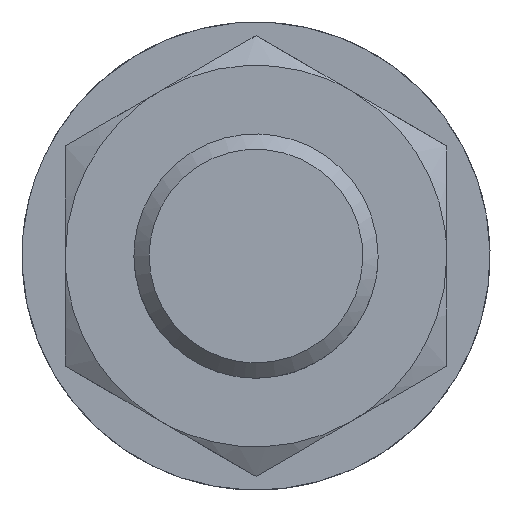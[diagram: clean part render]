
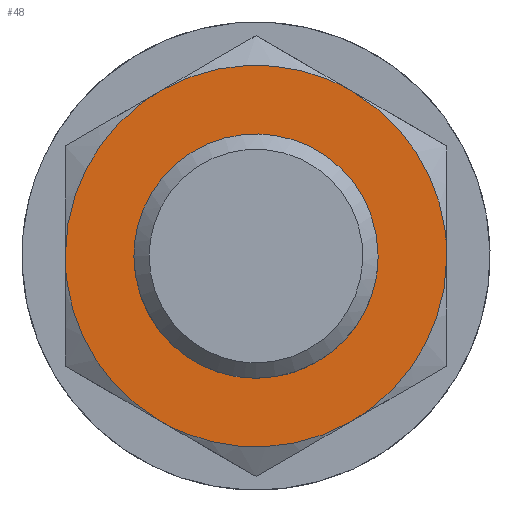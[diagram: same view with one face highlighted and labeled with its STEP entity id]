
A CAD part, left-side view. The second image highlights one B-rep face of the part: STEP entity #48.
In plain terms, the highlighted planar face has unit normal (-1, 0, 0).
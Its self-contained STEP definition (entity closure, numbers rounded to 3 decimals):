
#39=FACE_BOUND('',#135,.T.);
#48=ADVANCED_FACE('',(#90,#39),#655,.T.);
#90=FACE_OUTER_BOUND('',#134,.T.);
#134=EDGE_LOOP('',(#198,#199,#200,#201,#202,#203));
#135=EDGE_LOOP('',(#204,#205));
#198=ORIENTED_EDGE('',*,*,#399,.F.);
#199=ORIENTED_EDGE('',*,*,#401,.F.);
#200=ORIENTED_EDGE('',*,*,#402,.F.);
#201=ORIENTED_EDGE('',*,*,#400,.F.);
#202=ORIENTED_EDGE('',*,*,#398,.F.);
#203=ORIENTED_EDGE('',*,*,#397,.F.);
#204=ORIENTED_EDGE('',*,*,#387,.F.);
#205=ORIENTED_EDGE('',*,*,#385,.F.);
#385=EDGE_CURVE('',#600,#590,#510,.T.);
#387=EDGE_CURVE('',#590,#600,#511,.T.);
#397=EDGE_CURVE('',#594,#595,#519,.T.);
#398=EDGE_CURVE('',#595,#599,#520,.T.);
#399=EDGE_CURVE('',#596,#594,#521,.T.);
#400=EDGE_CURVE('',#599,#598,#522,.T.);
#401=EDGE_CURVE('',#597,#596,#523,.T.);
#402=EDGE_CURVE('',#598,#597,#524,.T.);
#510=(
BOUNDED_CURVE()
B_SPLINE_CURVE(2,(#1158,#1159,#1160,#1161,#1162),.UNSPECIFIED.,.F.,.F.)
B_SPLINE_CURVE_WITH_KNOTS((3,2,3),(75.398,113.097,150.796),
 .UNSPECIFIED.)
CURVE()
GEOMETRIC_REPRESENTATION_ITEM()
RATIONAL_B_SPLINE_CURVE((1.,0.707,1.,0.707,1.))
REPRESENTATION_ITEM('')
);
#511=(
BOUNDED_CURVE()
B_SPLINE_CURVE(2,(#1165,#1166,#1167,#1168,#1169),.UNSPECIFIED.,.F.,.F.)
B_SPLINE_CURVE_WITH_KNOTS((3,2,3),(0.,37.699,75.398),
 .UNSPECIFIED.)
CURVE()
GEOMETRIC_REPRESENTATION_ITEM()
RATIONAL_B_SPLINE_CURVE((1.,0.707,1.,0.707,1.))
REPRESENTATION_ITEM('')
);
#519=(
BOUNDED_CURVE()
B_SPLINE_CURVE(2,(#1207,#1208,#1209),.UNSPECIFIED.,.F.,.F.)
B_SPLINE_CURVE_WITH_KNOTS((3,3),(0.,39.27),.UNSPECIFIED.)
CURVE()
GEOMETRIC_REPRESENTATION_ITEM()
RATIONAL_B_SPLINE_CURVE((1.,0.866,1.))
REPRESENTATION_ITEM('')
);
#520=(
BOUNDED_CURVE()
B_SPLINE_CURVE(2,(#1210,#1211,#1212),.UNSPECIFIED.,.F.,.F.)
B_SPLINE_CURVE_WITH_KNOTS((3,3),(0.,39.27),.UNSPECIFIED.)
CURVE()
GEOMETRIC_REPRESENTATION_ITEM()
RATIONAL_B_SPLINE_CURVE((1.,0.866,1.))
REPRESENTATION_ITEM('')
);
#521=(
BOUNDED_CURVE()
B_SPLINE_CURVE(2,(#1213,#1214,#1215),.UNSPECIFIED.,.F.,.F.)
B_SPLINE_CURVE_WITH_KNOTS((3,3),(0.,39.27),.UNSPECIFIED.)
CURVE()
GEOMETRIC_REPRESENTATION_ITEM()
RATIONAL_B_SPLINE_CURVE((1.,0.866,1.))
REPRESENTATION_ITEM('')
);
#522=(
BOUNDED_CURVE()
B_SPLINE_CURVE(2,(#1216,#1217,#1218),.UNSPECIFIED.,.F.,.F.)
B_SPLINE_CURVE_WITH_KNOTS((3,3),(0.,39.27),.UNSPECIFIED.)
CURVE()
GEOMETRIC_REPRESENTATION_ITEM()
RATIONAL_B_SPLINE_CURVE((1.,0.866,1.))
REPRESENTATION_ITEM('')
);
#523=(
BOUNDED_CURVE()
B_SPLINE_CURVE(2,(#1219,#1220,#1221),.UNSPECIFIED.,.F.,.F.)
B_SPLINE_CURVE_WITH_KNOTS((3,3),(0.,39.27),.UNSPECIFIED.)
CURVE()
GEOMETRIC_REPRESENTATION_ITEM()
RATIONAL_B_SPLINE_CURVE((1.,0.866,1.))
REPRESENTATION_ITEM('')
);
#524=(
BOUNDED_CURVE()
B_SPLINE_CURVE(2,(#1222,#1223,#1224),.UNSPECIFIED.,.F.,.F.)
B_SPLINE_CURVE_WITH_KNOTS((3,3),(0.,39.27),.UNSPECIFIED.)
CURVE()
GEOMETRIC_REPRESENTATION_ITEM()
RATIONAL_B_SPLINE_CURVE((1.,0.866,1.))
REPRESENTATION_ITEM('')
);
#590=VERTEX_POINT('',#1126);
#594=VERTEX_POINT('',#1130);
#595=VERTEX_POINT('',#1131);
#596=VERTEX_POINT('',#1132);
#597=VERTEX_POINT('',#1133);
#598=VERTEX_POINT('',#1134);
#599=VERTEX_POINT('',#1135);
#600=VERTEX_POINT('',#1136);
#655=PLANE('',#769);
#769=AXIS2_PLACEMENT_3D('',#883,#795,$);
#795=DIRECTION('',(-1.,0.,0.));
#883=CARTESIAN_POINT('',(64.667,-45.12,-52.082));
#1126=CARTESIAN_POINT('',(64.667,24.,0.));
#1130=CARTESIAN_POINT('',(64.667,-18.75,-32.476));
#1131=CARTESIAN_POINT('',(64.667,18.75,-32.476));
#1132=CARTESIAN_POINT('',(64.667,-37.5,0.));
#1133=CARTESIAN_POINT('',(64.667,-18.75,32.476));
#1134=CARTESIAN_POINT('',(64.667,18.75,32.476));
#1135=CARTESIAN_POINT('',(64.667,37.5,0.));
#1136=CARTESIAN_POINT('',(64.667,-24.,0.));
#1158=CARTESIAN_POINT('',(64.667,-24.,0.));
#1159=CARTESIAN_POINT('',(64.667,-24.,24.));
#1160=CARTESIAN_POINT('',(64.667,0.,24.));
#1161=CARTESIAN_POINT('',(64.667,24.,24.));
#1162=CARTESIAN_POINT('',(64.667,24.,0.));
#1165=CARTESIAN_POINT('',(64.667,24.,0.));
#1166=CARTESIAN_POINT('',(64.667,24.,-24.));
#1167=CARTESIAN_POINT('',(64.667,0.,-24.));
#1168=CARTESIAN_POINT('',(64.667,-24.,-24.));
#1169=CARTESIAN_POINT('',(64.667,-24.,0.));
#1207=CARTESIAN_POINT('',(64.667,-18.75,-32.476));
#1208=CARTESIAN_POINT('',(64.667,0.,-43.301));
#1209=CARTESIAN_POINT('',(64.667,18.75,-32.476));
#1210=CARTESIAN_POINT('',(64.667,18.75,-32.476));
#1211=CARTESIAN_POINT('',(64.667,37.5,-21.651));
#1212=CARTESIAN_POINT('',(64.667,37.5,0.));
#1213=CARTESIAN_POINT('',(64.667,-37.5,0.));
#1214=CARTESIAN_POINT('',(64.667,-37.5,-21.651));
#1215=CARTESIAN_POINT('',(64.667,-18.75,-32.476));
#1216=CARTESIAN_POINT('',(64.667,37.5,0.));
#1217=CARTESIAN_POINT('',(64.667,37.5,21.651));
#1218=CARTESIAN_POINT('',(64.667,18.75,32.476));
#1219=CARTESIAN_POINT('',(64.667,-18.75,32.476));
#1220=CARTESIAN_POINT('',(64.667,-37.5,21.651));
#1221=CARTESIAN_POINT('',(64.667,-37.5,0.));
#1222=CARTESIAN_POINT('',(64.667,18.75,32.476));
#1223=CARTESIAN_POINT('',(64.667,0.,43.301));
#1224=CARTESIAN_POINT('',(64.667,-18.75,32.476));
